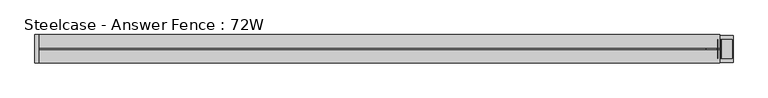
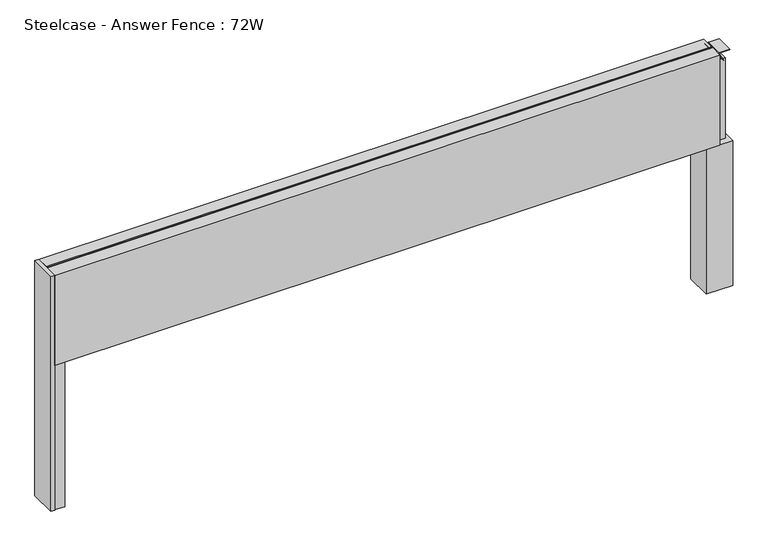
"""IFC4 building model written with IfcOpenShell, lengths in millimetres: furniture geometry, Steelcase - Answer Fence : 72W."""

from ifc_helpers import new_model, si_unit, point, frame, frame_2d, origin, place, context, project, spatial, polyline, circle_curve, trimmed, segment, composite_curve, outline, extrude, source, transform, mapped, element, save
from ifc_brep_helpers import plane_surface, cylinder_surface, revolved_surface, advanced_brep


def steelcase_answer_fence_72w_6aa8a157(model_context):
    return source(origin(), model_context, "Body", "SolidModel", [
        advanced_brep(
        [(1798.0140299, -7.4168014, -3.29e-05), (1772.5630726, -7.4168014, -3.29e-05), (1785.2885512, -7.4168014, -3.29e-05), (1798.0140299, -7.4168014, 2.446593), (1772.5630726, -7.4168014, 2.446593), (1790.2434775, -7.4168014, 4.8561413), (1780.333625, -7.4168014, 4.8561413), (1789.1612872, -7.4168014, 4.8561413), (1781.4158153, -7.4168014, 4.8561413), (1789.1612872, -7.4168014, 15.4939671), (1781.4158153, -7.4168014, 15.4939671), (1785.2885512, -7.4168014, 15.4939671)],
        [
            (0, 1, circle_curve(frame((1785.2885512, -7.4168014, -3.29e-05), z_axis=(0.0, 0.0, -1.0), x_axis=(-1.0, 0.0, 0.0)), 12.7254787)),
            (1, 2),
            (2, 0),
            (1, 0, circle_curve(frame((1785.2885512, -7.4168014, -3.29e-05), z_axis=(0.0, 0.0, -1.0), x_axis=(-1.0, 0.0, 0.0)), 12.7254787)),
            (3, 4, circle_curve(frame((1785.2885512, -7.4168014, 2.446593), z_axis=(0.0, 0.0, -1.0), x_axis=(-1.0, 0.0, 0.0)), 12.7254787)),
            (4, 1),
            (0, 3),
            (4, 3, circle_curve(frame((1785.2885512, -7.4168014, 2.446593), z_axis=(0.0, 0.0, -1.0), x_axis=(-1.0, 0.0, 0.0)), 12.7254787)),
            (5, 6, circle_curve(frame((1785.2885512, -7.4168014, 4.8561413), z_axis=(0.0, 0.0, -1.0), x_axis=(-1.0, 0.0, 0.0)), 4.9549262)),
            (6, 4),
            (3, 5),
            (6, 5, circle_curve(frame((1785.2885512, -7.4168014, 4.8561413), z_axis=(0.0, 0.0, -1.0), x_axis=(-1.0, 0.0, 0.0)), 4.9549262)),
            (7, 8, circle_curve(frame((1785.2885512, -7.4168014, 4.8561413), z_axis=(0.0, 0.0, -1.0), x_axis=(-1.0, 0.0, 0.0)), 3.8727359)),
            (8, 6),
            (5, 7),
            (8, 7, circle_curve(frame((1785.2885512, -7.4168014, 4.8561413), z_axis=(0.0, 0.0, -1.0), x_axis=(-1.0, 0.0, 0.0)), 3.8727359)),
            (9, 10, circle_curve(frame((1785.2885512, -7.4168014, 15.4939671), z_axis=(0.0, 0.0, -1.0), x_axis=(-1.0, 0.0, 0.0)), 3.8727359)),
            (10, 8),
            (7, 9),
            (10, 9, circle_curve(frame((1785.2885512, -7.4168014, 15.4939671), z_axis=(0.0, 0.0, -1.0), x_axis=(-1.0, 0.0, 0.0)), 3.8727359)),
            (11, 10),
            (9, 11),
        ],
        [
            plane_surface(frame((1785.2885512, -7.4168014, -3.29e-05), z_axis=(0.0, 0.0, -1.0), x_axis=(-1.0, 0.0, 0.0))),
            cylinder_surface(frame((1785.2885512, -7.4168014, -1.135133), z_axis=(0.0, 0.0, 1.0), x_axis=(-1.0, 0.0, 0.0)), 12.7254787),
            revolved_surface(polyline([(1772.5630726, -7.4168014, 2.446593), (1780.333625, -7.4168014, 4.8561413)]), (1785.2885512, -7.4168014, -1.135133), (0.0, 0.0, 1.0)),
            plane_surface(frame((1785.2885512, -7.4168014, 4.8561413), z_axis=(0.0, 0.0, 1.0), x_axis=(-1.0, 0.0, 0.0))),
            cylinder_surface(frame((1785.2885512, -7.4168014, -1.135133), z_axis=(0.0, 0.0, 1.0), x_axis=(-1.0, 0.0, 0.0)), 3.8727359),
            plane_surface(frame((1785.2885512, -7.4168014, 15.4939671), z_axis=(0.0, 0.0, 1.0), x_axis=(-1.0, 0.0, 0.0))),
        ],
        [
            (0, [[1, 2, 3]]),
            (0, [[4, -3, -2]]),
            (1, [[5, 6, -1, 7]]),
            (1, [[8, -7, -4, -6]]),
            (2, [[9, 10, -5, 11]]),
            (2, [[12, -11, -8, -10]]),
            (3, [[13, 14, -9, 15]]),
            (3, [[16, -15, -12, -14]]),
            (4, [[17, 18, -13, 19]]),
            (4, [[20, -19, -16, -18]]),
            (5, [[21, -17, 22]]),
            (5, [[-22, -20, -21]]),
        ],
    ),
        extrude(outline(polyline([(1825.0153999, 28.9756526), (1825.0153999, -43.7191471), (1752.3206001, -43.7191471), (1752.3206001, 28.9756526), (1825.0153999, 28.9756526)])), frame((0.0, 0.0, 15.4939671), z_axis=(0.0, 0.0, 1.0), x_axis=(1.0, 0.0, 0.0)), (0.0, 0.0, 1.0), 420.9763759),
        extrude(outline(composite_curve([segment(polyline([(694.8271015, 1753.5942703), (694.8271015, 1782.4823183)]), True, "CONTINUOUS"), segment(trimmed(circle_curve(frame_2d((693.8373834, 1782.4823183)), 0.9897181), [point((694.8271015, 1782.4823183))], [point((693.3575585, 1783.3479452))], True, "CARTESIAN"), True, "CONTINUOUS"), segment(polyline([(693.3575585, 1783.3479452), (670.7684479, 1770.8265967), (670.3405135, 1771.5983685), (693.0018984, 1784.1637221)]), True, "CONTINUOUS"), segment(trimmed(circle_curve(frame_2d((693.8919079, 1782.5586063)), 1.8353511), [point((693.0018984, 1784.1637221))], [point((695.7272589, 1782.5586063))], False, "CARTESIAN"), True, "CONTINUOUS"), segment(polyline([(695.7272589, 1782.5586063), (695.7272589, 1753.5942703), (694.8271015, 1753.5942703)]), True, "CONTINUOUS")], self_intersect=False)), frame((0.0, -33.0896971, 0.0), z_axis=(0.0, 1.0, 0.0), x_axis=(0.0, 0.0, 1.0)), (0.0, 0.0, 1.0), 50.8000666),
        extrude(outline(composite_curve([segment(polyline([(694.8271015, 1823.3448547), (695.7272589, 1823.3448547), (695.7272589, 1794.3805187)]), True, "CONTINUOUS"), segment(trimmed(circle_curve(frame_2d((693.8919079, 1794.3805187)), 1.8353511), [point((695.7272589, 1794.3805187))], [point((693.0018984, 1792.7754029))], False, "CARTESIAN"), True, "CONTINUOUS"), segment(polyline([(693.0018984, 1792.7754029), (670.3405135, 1805.3407565), (670.7684479, 1806.1125283), (693.3575585, 1793.5911798)]), True, "CONTINUOUS"), segment(trimmed(circle_curve(frame_2d((693.8373834, 1794.4568067)), 0.9897181), [point((693.3575585, 1793.5911798))], [point((694.8271015, 1794.4568067))], True, "CARTESIAN"), True, "CONTINUOUS"), segment(polyline([(694.8271015, 1794.4568067), (694.8271015, 1823.3448547)]), True, "CONTINUOUS")], self_intersect=False)), frame((0.0, -33.0896971, 0.0), z_axis=(0.0, 1.0, 0.0), x_axis=(0.0, 0.0, 1.0)), (0.0, 0.0, 1.0), 50.8000666),
        extrude(outline(polyline([(1813.9938496, 11.3543833), (1813.9938496, -26.7337081), (1763.1938496, -26.7337081), (1763.1938496, 11.3543833), (1813.9938496, 11.3543833)])), frame((0.0, 0.0, 436.470343), z_axis=(0.0, 0.0, 1.0), x_axis=(1.0, 0.0, 0.0)), (0.0, 0.0, 1.0), 233.7346385),
        extrude(outline(polyline([(-9.935178, -43.8092555), (-38.0832543, -43.8092555), (-38.0832543, -32.7724836), (-20.8608215, -32.7724836), (-20.8608215, 18.0275164), (-38.0701573, 18.0275164), (-38.0701573, 28.8855443), (-9.935178, 28.8855443), (-9.935178, -43.8092555)])), frame((0.0, 0.0, 15.4939671), z_axis=(0.0, 0.0, 1.0), x_axis=(1.0, 0.0, 0.0)), (0.0, 0.0, 1.0), 420.9763759),
        extrude(outline(polyline([(-48.2664464, -45.5635028), (-48.2664464, 30.7299), (-38.1, 30.7299), (-38.1, -45.5635028), (-48.2664464, -45.5635028)])), frame((0.0, 0.0, 15.4939671), z_axis=(0.0, 0.0, 1.0), x_axis=(1.0, 0.0, 0.0)), (0.0, 0.0, 1.0), 683.006),
        extrude(outline(polyline([(30.6507456, 698.5), (30.6507456, 436.470343), (-45.5168014, 436.470343), (-45.5168014, 698.5), (-10.7419756, 698.5), (-10.7419756, 695.721875), (-4.4428302, 695.721875), (-4.4428302, 698.5), (30.6507456, 698.5)])), frame((-38.1, 0.0, 0.0), z_axis=(1.0, 0.0, 0.0), x_axis=(0.0, 1.0, 0.0)), (0.0, 0.0, 1.0), 1826.768),
    ])


if __name__ == "__main__":
    model = new_model("IFC4")
    model_context = context("Model", 3, world=origin())
    ifc_project = project(units=[si_unit("LENGTHUNIT", "METRE", prefix="MILLI")], contexts=[model_context])
    site = spatial("IfcSite", under=ifc_project)
    building = spatial("IfcBuilding", under=site)
    placement = place(None, origin())
    steelcase_answer_fence_72w_shape = steelcase_answer_fence_72w_6aa8a157(model_context)
    element("IfcFurniture", 1, ObjectType="Steelcase - Answer Fence : 72W", at=placement, inside=building, context=model_context, shape_type="MappedRepresentation", body=[
        mapped(steelcase_answer_fence_72w_shape, transform((0.0, 0.0, 0.0), x_axis=(1.0, 0.0, 0.0), y_axis=(0.0, 1.0, 0.0), z_axis=(0.0, 0.0, 1.0))),
    ])
    save(model, "model.ifc")
